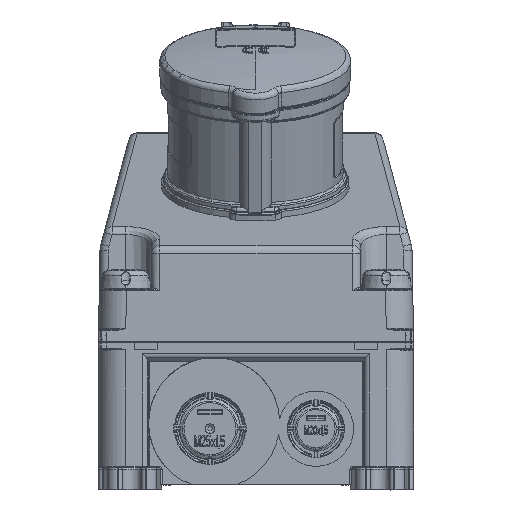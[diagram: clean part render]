
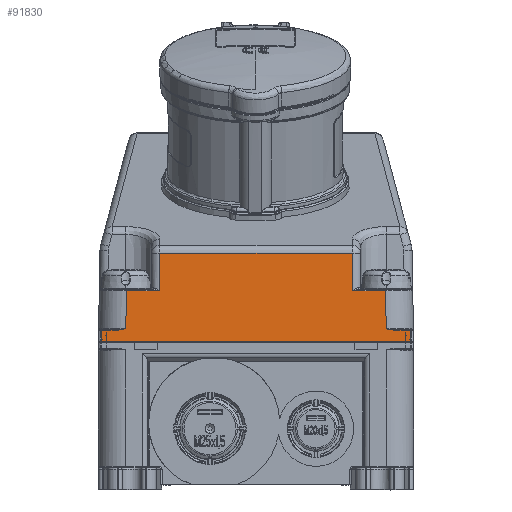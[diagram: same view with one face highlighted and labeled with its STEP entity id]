
A CAD part, front view. The second image highlights one B-rep face of the part: STEP entity #91830.
In plain terms, the highlighted planar face has unit normal (0, -1, 0.018).
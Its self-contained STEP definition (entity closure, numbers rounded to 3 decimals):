
#769=DIRECTION('',(-1.,0.,0.));
#770=VECTOR('',#769,5.367);
#771=CARTESIAN_POINT('',(6.406,0.039,57.255));
#772=LINE('31285',#771,#770);
#776=CARTESIAN_POINT('',(9.798,0.05,57.845));
#777=CARTESIAN_POINT('',(9.575,0.049,57.788));
#778=CARTESIAN_POINT('',(9.148,0.047,57.681));
#779=CARTESIAN_POINT('',(8.565,0.044,57.544));
#780=CARTESIAN_POINT('',(8.035,0.042,57.434));
#781=CARTESIAN_POINT('',(7.556,0.041,57.35));
#782=CARTESIAN_POINT('',(7.126,0.04,57.294));
#783=CARTESIAN_POINT('',(6.742,0.039,57.262));
#784=CARTESIAN_POINT('',(6.514,0.039,57.255));
#785=CARTESIAN_POINT('',(6.406,0.039,57.255));
#798=DIRECTION('',(0.017,0.017,1.));
#799=VECTOR('',#798,13.668);
#800=CARTESIAN_POINT('',(9.798,0.05,57.845));
#801=LINE('31288',#800,#799);
#805=DIRECTION('',(0.009,0.017,1.));
#806=VECTOR('',#805,13.432);
#807=CARTESIAN_POINT('',(21.845,0.288,71.509));
#808=LINE('31290',#807,#806);
#812=DIRECTION('',(0.009,-0.017,-1.));
#813=VECTOR('',#812,13.432);
#814=CARTESIAN_POINT('',(91.037,0.523,84.938));
#815=LINE('31292',#814,#813);
#819=DIRECTION('',(0.017,-0.017,-1.));
#820=VECTOR('',#819,13.668);
#821=CARTESIAN_POINT('',(102.963,0.288,71.509));
#822=LINE('31294',#821,#820);
#826=DIRECTION('',(0.017,-0.017,-1.));
#827=VECTOR('',#826,4.003);
#828=CARTESIAN_POINT('',(111.961,0.039,57.255));
#829=LINE('31297',#828,#827);
#833=DIRECTION('',(0.017,0.017,1.));
#834=VECTOR('',#833,4.003);
#835=CARTESIAN_POINT('',(0.969,-0.03,
53.253));
#836=LINE('31299',#835,#834);
#840=CARTESIAN_POINT('',(9.798,0.05,57.845));
#1118=DIRECTION('',(1.,0.,0.));
#1119=VECTOR('',#1118,111.061);
#1120=CARTESIAN_POINT('',(0.969,-0.03,
53.253));
#1121=LINE('31298',#1120,#1119);
#53118=DIRECTION('',(-1.,0.,0.));
#53119=VECTOR('',#53118,5.367);
#53120=CARTESIAN_POINT('',(111.961,0.039,
57.255));
#53121=LINE('31296',#53120,#53119);
#53133=CARTESIAN_POINT('',(106.594,0.039,
57.255));
#53134=CARTESIAN_POINT('',(106.486,0.039,
57.255));
#53135=CARTESIAN_POINT('',(106.258,0.039,
57.262));
#53136=CARTESIAN_POINT('',(105.873,0.04,
57.294));
#53137=CARTESIAN_POINT('',(105.444,0.041,
57.35));
#53138=CARTESIAN_POINT('',(104.965,0.042,
57.434));
#53139=CARTESIAN_POINT('',(104.435,0.044,
57.544));
#53140=CARTESIAN_POINT('',(103.852,0.047,
57.681));
#53141=CARTESIAN_POINT('',(103.425,0.049,
57.788));
#53142=CARTESIAN_POINT('',(103.202,0.05,
57.845));
#53517=DIRECTION('',(-1.,0.,0.));
#53518=VECTOR('',#53517,11.809);
#53519=CARTESIAN_POINT('',(102.963,0.288,
71.509));
#53520=LINE('31293',#53519,#53518);
#53583=DIRECTION('',(-1.,0.,0.));
#53584=VECTOR('',#53583,69.075);
#53585=CARTESIAN_POINT('',(91.037,0.523,
84.938));
#53586=LINE('31291',#53585,#53584);
#54111=DIRECTION('',(-1.,0.,0.));
#54112=VECTOR('',#54111,11.809);
#54113=CARTESIAN_POINT('',(21.845,0.288,
71.509));
#54114=LINE('31289',#54113,#54112);
#81432=VERTEX_POINT('',#840);
#81438=CARTESIAN_POINT('',(6.406,0.039,
57.255));
#81439=VERTEX_POINT('',#81438);
#81440=CARTESIAN_POINT('',(1.039,0.039,
57.255));
#81441=VERTEX_POINT('',#81440);
#81442=CARTESIAN_POINT('',(10.037,0.288,
71.509));
#81443=VERTEX_POINT('',#81442);
#81444=CARTESIAN_POINT('',(21.845,0.288,
71.509));
#81445=VERTEX_POINT('',#81444);
#81446=CARTESIAN_POINT('',(21.963,0.523,
84.938));
#81447=VERTEX_POINT('',#81446);
#81448=CARTESIAN_POINT('',(91.037,0.523,
84.938));
#81449=VERTEX_POINT('',#81448);
#81450=CARTESIAN_POINT('',(91.155,0.288,
71.509));
#81451=VERTEX_POINT('',#81450);
#81452=CARTESIAN_POINT('',(102.963,0.288,
71.509));
#81453=VERTEX_POINT('',#81452);
#81454=CARTESIAN_POINT('',(103.202,0.05,
57.845));
#81455=VERTEX_POINT('',#81454);
#81456=VERTEX_POINT('',#53133);
#81457=CARTESIAN_POINT('',(111.961,0.039,
57.255));
#81458=VERTEX_POINT('',#81457);
#81459=CARTESIAN_POINT('',(112.031,-0.03,
53.253));
#81460=VERTEX_POINT('',#81459);
#81461=CARTESIAN_POINT('',(0.969,-0.03,
53.253));
#81462=VERTEX_POINT('',#81461);
#91797=CARTESIAN_POINT('',(-1.2,0.,55.));
#91798=DIRECTION('',(0.,-1.,0.017));
#91799=DIRECTION('',(-1.,0.,0.));
#91800=AXIS2_PLACEMENT_3D('',#91797,#91798,#91799);
#91801=PLANE('40304',#91800);
#91802=ORIENTED_EDGE('31287',*,*,#91791,.F.);
#91804=ORIENTED_EDGE('31288',*,*,#91803,.T.);
#91806=ORIENTED_EDGE('31289',*,*,#91805,.F.);
#91808=ORIENTED_EDGE('31290',*,*,#91807,.T.);
#91810=ORIENTED_EDGE('31291',*,*,#91809,.F.);
#91812=ORIENTED_EDGE('31292',*,*,#91811,.T.);
#91814=ORIENTED_EDGE('31293',*,*,#91813,.F.);
#91816=ORIENTED_EDGE('31294',*,*,#91815,.T.);
#91818=ORIENTED_EDGE('31295',*,*,#91817,.F.);
#91820=ORIENTED_EDGE('31296',*,*,#91819,.F.);
#91822=ORIENTED_EDGE('31297',*,*,#91821,.T.);
#91824=ORIENTED_EDGE('31298',*,*,#91823,.F.);
#91826=ORIENTED_EDGE('31299',*,*,#91825,.T.);
#91827=ORIENTED_EDGE('31285',*,*,#91742,.F.);
#91828=EDGE_LOOP('40304',(#91802,#91804,#91806,#91808,#91810,#91812,#91814,
#91816,#91818,#91820,#91822,#91824,#91826,#91827));
#91829=FACE_OUTER_BOUND('40304',#91828,.F.);
#786=B_SPLINE_CURVE_WITH_KNOTS('31287',3,(#776,#777,#778,#779,#780,#781,#782,
#783,#784,#785),.UNSPECIFIED.,.F.,.F.,(4,1,1,1,1,1,1,4),(0.,0.143,
0.286,0.429,0.571,0.714,
0.857,1.),.UNSPECIFIED.);
#53143=B_SPLINE_CURVE_WITH_KNOTS('31295',3,(#53133,#53134,#53135,#53136,#53137,
#53138,#53139,#53140,#53141,#53142),.UNSPECIFIED.,.F.,.F.,(4,1,1,1,1,1,1,4),(
0.,0.143,0.286,0.429,0.571,
0.714,0.857,1.),.UNSPECIFIED.);
#91742=EDGE_CURVE('31285',#81439,#81441,#772,.T.);
#91791=EDGE_CURVE('31287',#81432,#81439,#786,.T.);
#91803=EDGE_CURVE('31288',#81432,#81443,#801,.T.);
#91805=EDGE_CURVE('31289',#81445,#81443,#54114,.T.);
#91807=EDGE_CURVE('31290',#81445,#81447,#808,.T.);
#91809=EDGE_CURVE('31291',#81449,#81447,#53586,.T.);
#91811=EDGE_CURVE('31292',#81449,#81451,#815,.T.);
#91813=EDGE_CURVE('31293',#81453,#81451,#53520,.T.);
#91815=EDGE_CURVE('31294',#81453,#81455,#822,.T.);
#91817=EDGE_CURVE('31295',#81456,#81455,#53143,.T.);
#91819=EDGE_CURVE('31296',#81458,#81456,#53121,.T.);
#91821=EDGE_CURVE('31297',#81458,#81460,#829,.T.);
#91823=EDGE_CURVE('31298',#81462,#81460,#1121,.T.);
#91825=EDGE_CURVE('31299',#81462,#81441,#836,.T.);
#91830=ADVANCED_FACE('40304',(#91829),#91801,.T.);
